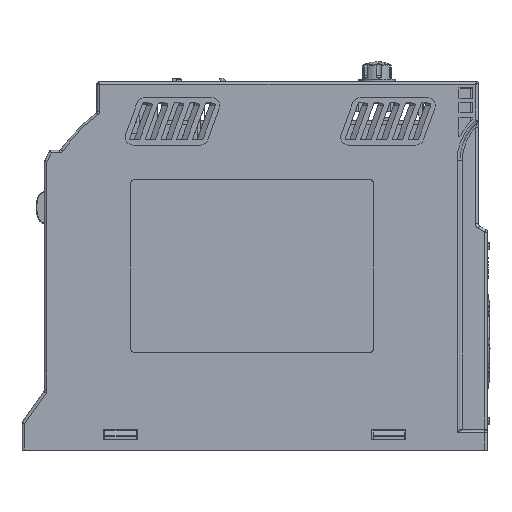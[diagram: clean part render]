
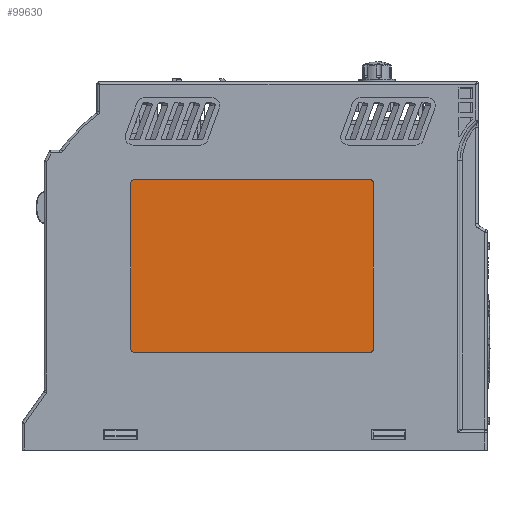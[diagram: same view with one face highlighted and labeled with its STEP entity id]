
A CAD part, top view. The second image highlights one B-rep face of the part: STEP entity #99630.
In plain terms, the highlighted planar face has unit normal (0, 0, 1).
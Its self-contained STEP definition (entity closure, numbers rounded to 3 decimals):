
#3444 = LINE ( 'NONE', #72667, #151691 ) ;
#6996 = FACE_OUTER_BOUND ( 'NONE', #98326, .T. ) ;
#11702 = AXIS2_PLACEMENT_3D ( 'NONE', #84964, #99356, #73884 ) ;
#12532 = CARTESIAN_POINT ( 'NONE',  ( -75.907, -56.311, 165.16 ) ) ;
#14193 = DIRECTION ( 'NONE',  ( 0., 0., 1. ) ) ;
#15991 = AXIS2_PLACEMENT_3D ( 'NONE', #151401, #164066, #133946 ) ;
#16978 = CARTESIAN_POINT ( 'NONE',  ( 15.293, 8.189, 165.16 ) ) ;
#17599 = DIRECTION ( 'NONE',  ( 0., 1., 0. ) ) ;
#18234 = VERTEX_POINT ( 'NONE', #53873 ) ;
#19755 = VERTEX_POINT ( 'NONE', #151642 ) ;
#21234 = ORIENTED_EDGE ( 'NONE', *, *, #31641, .T. ) ;
#21462 = ORIENTED_EDGE ( 'NONE', *, *, #102833, .T. ) ;
#23351 = CIRCLE ( 'NONE', #93749, 1. ) ;
#31641 = EDGE_CURVE ( 'NONE', #150860, #38932, #56592, .T. ) ;
#34398 = DIRECTION ( 'NONE',  ( 1., 0., 0. ) ) ;
#36361 = AXIS2_PLACEMENT_3D ( 'NONE', #112140, #165274, #114610 ) ;
#37640 = CARTESIAN_POINT ( 'NONE',  ( -75.907, -56.311, 165.16 ) ) ;
#37911 = EDGE_CURVE ( 'NONE', #107382, #159191, #98571, .T. ) ;
#38749 = DIRECTION ( 'NONE',  ( 0., -1., 0. ) ) ;
#38932 = VERTEX_POINT ( 'NONE', #74646 ) ;
#43755 = LINE ( 'NONE', #106589, #85709 ) ;
#46260 = ORIENTED_EDGE ( 'NONE', *, *, #84736, .T. ) ;
#48458 = DIRECTION ( 'NONE',  ( 0., 0., 1. ) ) ;
#53873 = CARTESIAN_POINT ( 'NONE',  ( -74.907, -57.311, 165.16 ) ) ;
#56592 = CIRCLE ( 'NONE', #15991, 1. ) ;
#58714 = CARTESIAN_POINT ( 'NONE',  ( -74.907, -56.311, 165.16 ) ) ;
#61846 = CARTESIAN_POINT ( 'NONE',  ( -74.907, 8.189, 165.16 ) ) ;
#65392 = ORIENTED_EDGE ( 'NONE', *, *, #69483, .T. ) ;
#69483 = EDGE_CURVE ( 'NONE', #18234, #19755, #135188, .T. ) ;
#70880 = CARTESIAN_POINT ( 'NONE',  ( -74.907, -57.311, 165.16 ) ) ;
#72667 = CARTESIAN_POINT ( 'NONE',  ( -74.907, 8.189, 165.16 ) ) ;
#73137 = DIRECTION ( 'NONE',  ( -1., 0., 0. ) ) ;
#73884 = DIRECTION ( 'NONE',  ( -1., 0., 0. ) ) ;
#74646 = CARTESIAN_POINT ( 'NONE',  ( -75.907, 7.189, 165.16 ) ) ;
#84736 = EDGE_CURVE ( 'NONE', #129683, #107382, #43755, .T. ) ;
#84964 = CARTESIAN_POINT ( 'NONE',  ( -74.907, 7.189, 165.16 ) ) ;
#85709 = VECTOR ( 'NONE', #17599, 1000. ) ;
#88585 = EDGE_CURVE ( 'NONE', #159191, #150860, #3444, .T. ) ;
#89072 = VERTEX_POINT ( 'NONE', #37640 ) ;
#91326 = CARTESIAN_POINT ( 'NONE',  ( 15.293, -56.311, 165.16 ) ) ;
#93749 = AXIS2_PLACEMENT_3D ( 'NONE', #91326, #14193, #113432 ) ;
#94689 = CARTESIAN_POINT ( 'NONE',  ( 16.293, -56.311, 165.16 ) ) ;
#98326 = EDGE_LOOP ( 'NONE', ( #21234, #160316, #21462, #65392, #104644, #46260, #145515, #100512 ) ) ;
#98571 = CIRCLE ( 'NONE', #36361, 1. ) ;
#99356 = DIRECTION ( 'NONE',  ( 0., 0., -1. ) ) ;
#99630 = ADVANCED_FACE ( 'NONE', ( #6996 ), #137330, .F. ) ;
#100512 = ORIENTED_EDGE ( 'NONE', *, *, #88585, .T. ) ;
#101664 = EDGE_CURVE ( 'NONE', #19755, #129683, #23351, .T. ) ;
#102833 = EDGE_CURVE ( 'NONE', #89072, #18234, #126245, .T. ) ;
#103227 = LINE ( 'NONE', #12532, #125964 ) ;
#104644 = ORIENTED_EDGE ( 'NONE', *, *, #101664, .T. ) ;
#106589 = CARTESIAN_POINT ( 'NONE',  ( 16.293, -56.311, 165.16 ) ) ;
#107382 = VERTEX_POINT ( 'NONE', #166777 ) ;
#112140 = CARTESIAN_POINT ( 'NONE',  ( 15.293, 7.189, 165.16 ) ) ;
#113432 = DIRECTION ( 'NONE',  ( 1., 0., 0. ) ) ;
#114610 = DIRECTION ( 'NONE',  ( -1., 0., 0. ) ) ;
#125964 = VECTOR ( 'NONE', #38749, 1000. ) ;
#126245 = CIRCLE ( 'NONE', #147783, 1. ) ;
#129683 = VERTEX_POINT ( 'NONE', #94689 ) ;
#132176 = DIRECTION ( 'NONE',  ( -1., 0., 0. ) ) ;
#133946 = DIRECTION ( 'NONE',  ( -1., 0., 0. ) ) ;
#134701 = VECTOR ( 'NONE', #34398, 1000. ) ;
#135188 = LINE ( 'NONE', #70880, #134701 ) ;
#137330 = PLANE ( 'NONE',  #11702 ) ;
#145515 = ORIENTED_EDGE ( 'NONE', *, *, #37911, .T. ) ;
#147783 = AXIS2_PLACEMENT_3D ( 'NONE', #58714, #48458, #73137 ) ;
#150860 = VERTEX_POINT ( 'NONE', #61846 ) ;
#151401 = CARTESIAN_POINT ( 'NONE',  ( -74.907, 7.189, 165.16 ) ) ;
#151642 = CARTESIAN_POINT ( 'NONE',  ( 15.293, -57.311, 165.16 ) ) ;
#151691 = VECTOR ( 'NONE', #132176, 1000. ) ;
#153012 = EDGE_CURVE ( 'NONE', #38932, #89072, #103227, .T. ) ;
#159191 = VERTEX_POINT ( 'NONE', #16978 ) ;
#160316 = ORIENTED_EDGE ( 'NONE', *, *, #153012, .T. ) ;
#164066 = DIRECTION ( 'NONE',  ( 0., 0., 1. ) ) ;
#165274 = DIRECTION ( 'NONE',  ( 0., 0., 1. ) ) ;
#166777 = CARTESIAN_POINT ( 'NONE',  ( 16.293, 7.189, 165.16 ) ) ;
